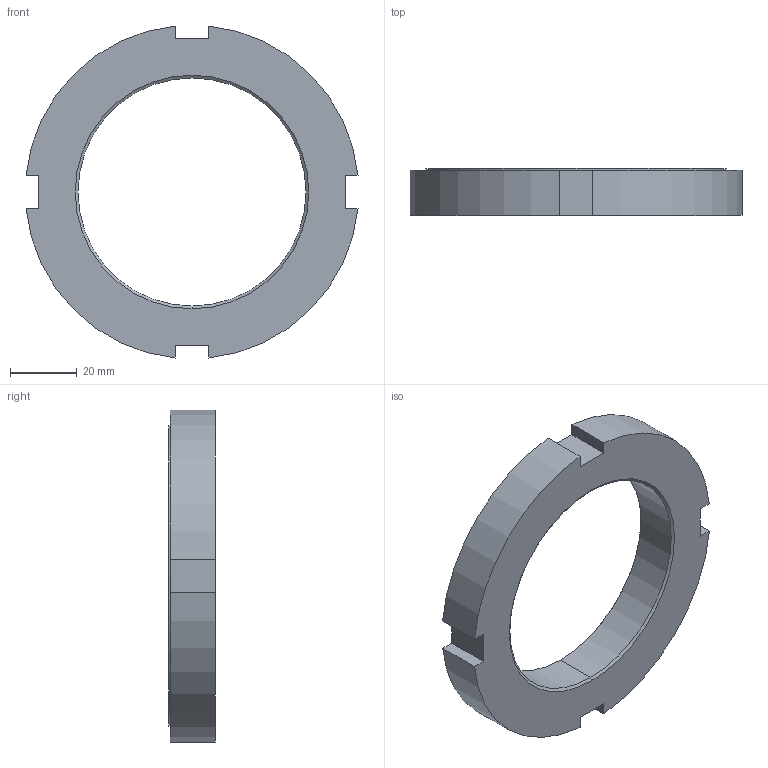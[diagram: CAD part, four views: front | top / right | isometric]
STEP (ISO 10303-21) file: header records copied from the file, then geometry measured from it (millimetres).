
FILE_DESCRIPTION((''),'2;1');
FILE_NAME('Nutmutter DIN 1804 M70x1.5.stp','Thu Apr 18 12:48:01 2002\N\' ,(''),(''),'','','');
FILE_SCHEMA(('CONFIG_CONTROL_DESIGN'));
Length unit declared in the file: millimetre
Products named in the file (1): PRODUCT_ID_1
Bounding box: 99.49 x 14 x 99.49 mm (x, y, z)
Volume: 55582.5 mm3; surface area: 15674.4 mm2
Topology: 1 solids, 1 shells, 27 faces, 68 edges, 44 vertices
Faces by surface type: plane 15, cylinder 8, cone 4
Entity records: 804 total; most frequent: ORIENTED_EDGE 136, CARTESIAN_POINT 120, DIRECTION 104, EDGE_CURVE 68, VECTOR 48, LINE 48, VERTEX_POINT 44, EDGE_LOOP 30
